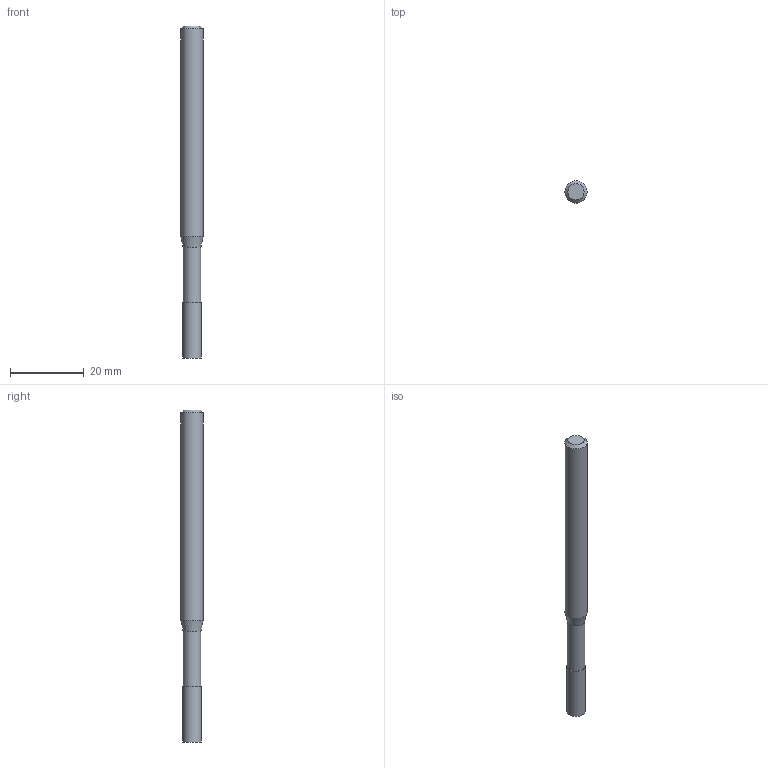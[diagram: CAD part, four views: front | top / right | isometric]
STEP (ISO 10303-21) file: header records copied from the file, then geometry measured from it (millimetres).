
FILE_DESCRIPTION((''),'2;1');
FILE_NAME('C:\Users\nsx150\Desktop\RSE230_20210427\01-00644-05030 RSE230 D5X15X30.step','2021-05-07T14:54:22',(''),(''),'STEP Write','Mastercam 2021 ... CNC Software, Inc.','');
FILE_SCHEMA(('AUTOMOTIVE_DESIGN'));
Length unit declared in the file: millimetre
Products named in the file (1): None
Bounding box: 6 x 6 x 90 mm (x, y, z)
Volume: 2242 mm3; surface area: 1664.5 mm2
Topology: 2 solids, 2 shells, 9 faces, 12 edges, 7 vertices
Faces by surface type: plane 4, cylinder 3, cone 2
Full cylindrical faces by diameter (mm): 4.8 x1, 5 x1, 6 x1
Entity records: 211 total; most frequent: DIRECTION 36, CARTESIAN_POINT 25, AXIS2_PLACEMENT_3D 18, ORIENTED_EDGE 14, EDGE_LOOP 14, STYLED_ITEM 12, ADVANCED_FACE 9, FACE_BOUND 8
